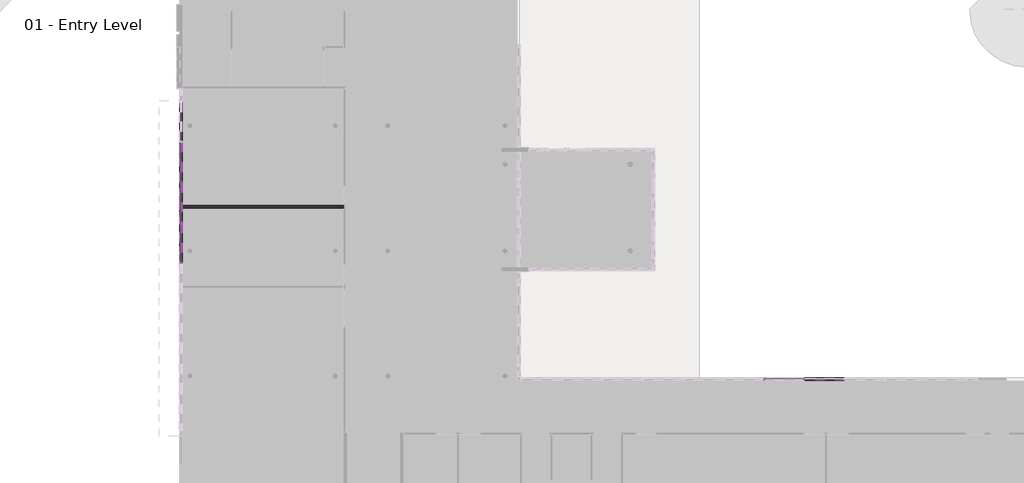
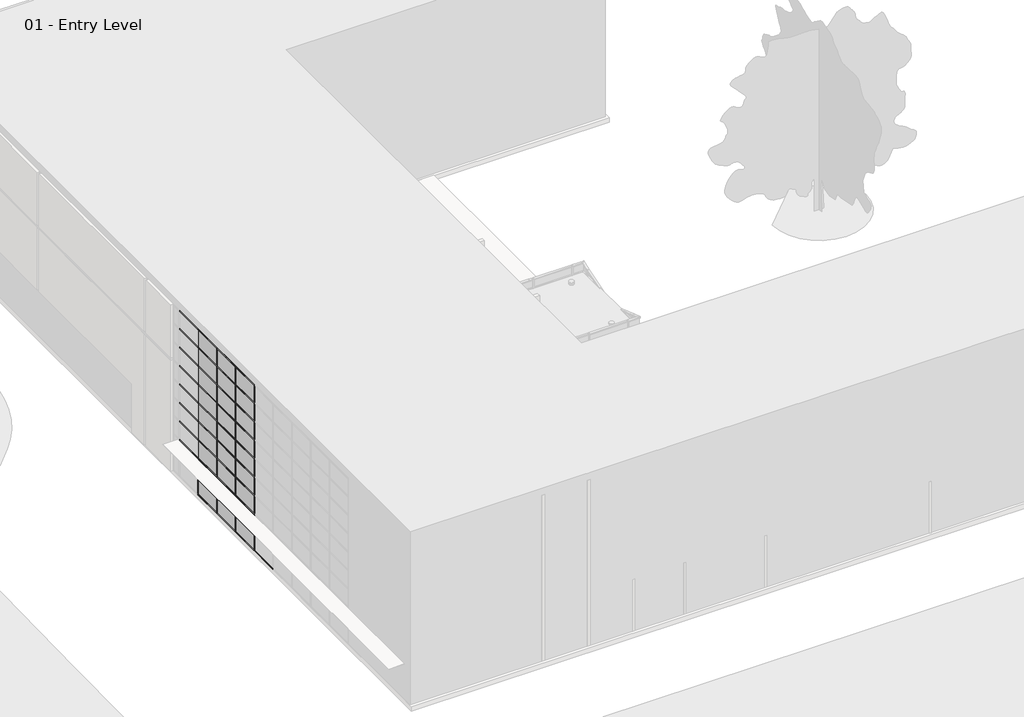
# One storey, part 11 of 34: 94 members, 36 plates, 1 wall.
"""IFC4 building model written with IfcOpenShell, lengths in millimetres."""

from ifc_helpers import new_model, si_unit, origin, origin_with_axes, place, context, project, spatial, polyline, outline, extrude, transform, mapped, element, save
from components import member_2b49869a, member_391b434c, member_9e90ae50, system_panel_glazed_1b9d6098, system_panel_glazed_70da479d, system_panel_solid_b376696c, system_panel_solid_77e8b053

model = new_model("IFC4")

# Units and contexts
model_context = context("Model", 3, world=origin())
ifc_project = project(units=[si_unit("LENGTHUNIT", "METRE", prefix="MILLI")], contexts=[model_context])

# Site, building, storey
site = spatial("IfcSite", under=ifc_project)
building = spatial("IfcBuilding", under=site)
storey = spatial("IfcBuildingStorey", under=building, Name="01 - Entry Level", Elevation=0.0)

# Members
placement = place(None, origin())
member_shape = member_2b49869a(model_context)
element("IfcMember", 1, ObjectType="Rectangular Mullion : 2.5\" x 5\" rectangular", at=placement, inside=storey, context=model_context, shape_type="MappedRepresentation", body=[
    mapped(member_shape, transform((178.7207476, 20920.0, 9753.6), x_axis=(0.0, -1.0, 0.0), y_axis=(-1.0, 0.0, 0.0), z_axis=(0.0, 0.0, -1.0))),
])
element("IfcMember", 2, ObjectType="Rectangular Mullion : 2.5\" x 5\" rectangular", at=placement, inside=storey, context=model_context, shape_type="MappedRepresentation", body=[
    mapped(member_shape, transform((178.7207476, 18888.0, 9753.6), x_axis=(0.0, -1.0, 0.0), y_axis=(-1.0, 0.0, 0.0), z_axis=(0.0, 0.0, -1.0))),
])
element("IfcMember", 3, ObjectType="Rectangular Mullion : 2.5\" x 5\" rectangular", at=placement, inside=storey, context=model_context, shape_type="MappedRepresentation", body=[
    mapped(member_shape, transform((178.7207476, 16856.0, 9753.6), x_axis=(0.0, -1.0, 0.0), y_axis=(-1.0, 0.0, 0.0), z_axis=(0.0, 0.0, -1.0))),
])
element("IfcMember", 4, ObjectType="Rectangular Mullion : 2.5\" x 5\" rectangular", at=placement, inside=storey, context=model_context, shape_type="MappedRepresentation", body=[
    mapped(member_shape, transform((31560.4207476, 11001.3, 9753.6), x_axis=(-1.0, 0.0, 0.0), y_axis=(0.0, 1.0, 0.0), z_axis=(0.0, 0.0, -1.0))),
])
element("IfcMember", 5, ObjectType="Rectangular Mullion : 2.5\" x 5\" rectangular", at=placement, inside=storey, context=model_context, shape_type="MappedRepresentation", body=[
    mapped(member_shape, transform((29528.4207476, 11001.3, 9753.6), x_axis=(-1.0, 0.0, 0.0), y_axis=(0.0, 1.0, 0.0), z_axis=(0.0, 0.0, -1.0))),
])
member_2_shape = member_391b434c(model_context)
element("IfcMember", 6, ObjectType="Rectangular Mullion : 2.5\" x 5\" rectangular", at=placement, inside=storey, context=model_context, shape_type="MappedRepresentation", body=[
    mapped(member_2_shape, transform((178.7207476, 22983.75, 10972.8), x_axis=(0.0, 0.0, 1.0), y_axis=(-1.0, 0.0, 0.0), z_axis=(0.0, -1.0, 0.0))),
])
element("IfcMember", 7, ObjectType="Rectangular Mullion : 2.5\" x 5\" rectangular", at=placement, inside=storey, context=model_context, shape_type="MappedRepresentation", body=[
    mapped(member_2_shape, transform((178.7207476, 20951.75, 10972.8), x_axis=(0.0, 0.0, 1.0), y_axis=(-1.0, 0.0, 0.0), z_axis=(0.0, -1.0, 0.0))),
])
element("IfcMember", 8, ObjectType="Rectangular Mullion : 2.5\" x 5\" rectangular", at=placement, inside=storey, context=model_context, shape_type="MappedRepresentation", body=[
    mapped(member_2_shape, transform((178.7207476, 18919.75, 10972.8), x_axis=(0.0, 0.0, 1.0), y_axis=(-1.0, 0.0, 0.0), z_axis=(0.0, -1.0, 0.0))),
])
element("IfcMember", 9, ObjectType="Rectangular Mullion : 2.5\" x 5\" rectangular", at=placement, inside=storey, context=model_context, shape_type="MappedRepresentation", body=[
    mapped(member_2_shape, transform((178.7207476, 16887.75, 10972.8), x_axis=(0.0, 0.0, 1.0), y_axis=(-1.0, 0.0, 0.0), z_axis=(0.0, -1.0, 0.0))),
])
element("IfcMember", 10, ObjectType="Rectangular Mullion : 2.5\" x 5\" rectangular", at=placement, inside=storey, context=model_context, shape_type="MappedRepresentation", body=[
    mapped(member_2_shape, transform((31592.1707476, 11001.3, 10972.8), x_axis=(0.0, 0.0, 1.0), y_axis=(0.0, 1.0, 0.0), z_axis=(-1.0, 0.0, 0.0))),
])
element("IfcMember", 11, ObjectType="Rectangular Mullion : 2.5\" x 5\" rectangular", at=placement, inside=storey, context=model_context, shape_type="MappedRepresentation", body=[
    mapped(member_2_shape, transform((178.7207476, 22920.25, 0.0), x_axis=(0.0, 0.0, -1.0), y_axis=(-1.0, 0.0, 0.0), z_axis=(0.0, 1.0, 0.0))),
])
element("IfcMember", 12, ObjectType="Rectangular Mullion : 2.5\" x 5\" rectangular", at=placement, inside=storey, context=model_context, shape_type="MappedRepresentation", body=[
    mapped(member_2_shape, transform((178.7207476, 20888.25, 0.0), x_axis=(0.0, 0.0, -1.0), y_axis=(-1.0, 0.0, 0.0), z_axis=(0.0, 1.0, 0.0))),
])
element("IfcMember", 13, ObjectType="Rectangular Mullion : 2.5\" x 5\" rectangular", at=placement, inside=storey, context=model_context, shape_type="MappedRepresentation", body=[
    mapped(member_2_shape, transform((178.7207476, 18856.25, 0.0), x_axis=(0.0, 0.0, -1.0), y_axis=(-1.0, 0.0, 0.0), z_axis=(0.0, 1.0, 0.0))),
])
element("IfcMember", 14, ObjectType="Rectangular Mullion : 2.5\" x 5\" rectangular", at=placement, inside=storey, context=model_context, shape_type="MappedRepresentation", body=[
    mapped(member_2_shape, transform((178.7207476, 16824.25, 0.0), x_axis=(0.0, 0.0, -1.0), y_axis=(-1.0, 0.0, 0.0), z_axis=(0.0, 1.0, 0.0))),
])
element("IfcMember", 15, ObjectType="Rectangular Mullion : 2.5\" x 5\" rectangular", at=placement, inside=storey, context=model_context, shape_type="MappedRepresentation", body=[
    mapped(member_2_shape, transform((31528.6707476, 11001.3, 0.0), x_axis=(0.0, 0.0, -1.0), y_axis=(0.0, 1.0, 0.0), z_axis=(1.0, 0.0, 0.0))),
])
member_3_shape = member_9e90ae50(model_context)
element("IfcMember", 16, ObjectType="Rectangular Mullion : 2.5\" x 5\" rectangular", at=placement, inside=storey, context=model_context, shape_type="MappedRepresentation", body=[
    mapped(member_3_shape, transform((178.7207476, 22983.75, 1219.2), x_axis=(0.0, 0.0, 1.0), y_axis=(-1.0, 0.0, 0.0), z_axis=(0.0, -1.0, 0.0))),
])
element("IfcMember", 17, ObjectType="Rectangular Mullion : 2.5\" x 5\" rectangular", at=placement, inside=storey, context=model_context, shape_type="MappedRepresentation", body=[
    mapped(member_3_shape, transform((178.7207476, 20951.75, 1219.2), x_axis=(0.0, 0.0, 1.0), y_axis=(-1.0, 0.0, 0.0), z_axis=(0.0, -1.0, 0.0))),
])
element("IfcMember", 18, ObjectType="Rectangular Mullion : 2.5\" x 5\" rectangular", at=placement, inside=storey, context=model_context, shape_type="MappedRepresentation", body=[
    mapped(member_3_shape, transform((178.7207476, 18919.75, 1219.2), x_axis=(0.0, 0.0, 1.0), y_axis=(-1.0, 0.0, 0.0), z_axis=(0.0, -1.0, 0.0))),
])
element("IfcMember", 19, ObjectType="Rectangular Mullion : 2.5\" x 5\" rectangular", at=placement, inside=storey, context=model_context, shape_type="MappedRepresentation", body=[
    mapped(member_3_shape, transform((178.7207476, 16887.75, 1219.2), x_axis=(0.0, 0.0, 1.0), y_axis=(-1.0, 0.0, 0.0), z_axis=(0.0, -1.0, 0.0))),
])
element("IfcMember", 20, ObjectType="Rectangular Mullion : 2.5\" x 5\" rectangular", at=placement, inside=storey, context=model_context, shape_type="MappedRepresentation", body=[
    mapped(member_3_shape, transform((178.7207476, 22983.75, 2438.4), x_axis=(0.0, 0.0, 1.0), y_axis=(-1.0, 0.0, 0.0), z_axis=(0.0, -1.0, 0.0))),
])
element("IfcMember", 21, ObjectType="Rectangular Mullion : 2.5\" x 5\" rectangular", at=placement, inside=storey, context=model_context, shape_type="MappedRepresentation", body=[
    mapped(member_3_shape, transform((178.7207476, 20951.75, 2438.4), x_axis=(0.0, 0.0, 1.0), y_axis=(-1.0, 0.0, 0.0), z_axis=(0.0, -1.0, 0.0))),
])
element("IfcMember", 22, ObjectType="Rectangular Mullion : 2.5\" x 5\" rectangular", at=placement, inside=storey, context=model_context, shape_type="MappedRepresentation", body=[
    mapped(member_3_shape, transform((178.7207476, 18919.75, 2438.4), x_axis=(0.0, 0.0, 1.0), y_axis=(-1.0, 0.0, 0.0), z_axis=(0.0, -1.0, 0.0))),
])
element("IfcMember", 23, ObjectType="Rectangular Mullion : 2.5\" x 5\" rectangular", at=placement, inside=storey, context=model_context, shape_type="MappedRepresentation", body=[
    mapped(member_3_shape, transform((178.7207476, 16887.75, 2438.4), x_axis=(0.0, 0.0, 1.0), y_axis=(-1.0, 0.0, 0.0), z_axis=(0.0, -1.0, 0.0))),
])
element("IfcMember", 24, ObjectType="Rectangular Mullion : 2.5\" x 5\" rectangular", at=placement, inside=storey, context=model_context, shape_type="MappedRepresentation", body=[
    mapped(member_3_shape, transform((178.7207476, 22983.75, 3657.6), x_axis=(0.0, 0.0, 1.0), y_axis=(-1.0, 0.0, 0.0), z_axis=(0.0, -1.0, 0.0))),
])
element("IfcMember", 25, ObjectType="Rectangular Mullion : 2.5\" x 5\" rectangular", at=placement, inside=storey, context=model_context, shape_type="MappedRepresentation", body=[
    mapped(member_3_shape, transform((178.7207476, 20951.75, 3657.6), x_axis=(0.0, 0.0, 1.0), y_axis=(-1.0, 0.0, 0.0), z_axis=(0.0, -1.0, 0.0))),
])
element("IfcMember", 26, ObjectType="Rectangular Mullion : 2.5\" x 5\" rectangular", at=placement, inside=storey, context=model_context, shape_type="MappedRepresentation", body=[
    mapped(member_3_shape, transform((178.7207476, 18919.75, 3657.6), x_axis=(0.0, 0.0, 1.0), y_axis=(-1.0, 0.0, 0.0), z_axis=(0.0, -1.0, 0.0))),
])
element("IfcMember", 27, ObjectType="Rectangular Mullion : 2.5\" x 5\" rectangular", at=placement, inside=storey, context=model_context, shape_type="MappedRepresentation", body=[
    mapped(member_3_shape, transform((178.7207476, 16887.75, 3657.6), x_axis=(0.0, 0.0, 1.0), y_axis=(-1.0, 0.0, 0.0), z_axis=(0.0, -1.0, 0.0))),
])
element("IfcMember", 28, ObjectType="Rectangular Mullion : 2.5\" x 5\" rectangular", at=placement, inside=storey, context=model_context, shape_type="MappedRepresentation", body=[
    mapped(member_3_shape, transform((178.7207476, 22983.75, 4876.8), x_axis=(0.0, 0.0, 1.0), y_axis=(-1.0, 0.0, 0.0), z_axis=(0.0, -1.0, 0.0))),
])
element("IfcMember", 29, ObjectType="Rectangular Mullion : 2.5\" x 5\" rectangular", at=placement, inside=storey, context=model_context, shape_type="MappedRepresentation", body=[
    mapped(member_3_shape, transform((178.7207476, 20951.75, 4876.8), x_axis=(0.0, 0.0, 1.0), y_axis=(-1.0, 0.0, 0.0), z_axis=(0.0, -1.0, 0.0))),
])
element("IfcMember", 30, ObjectType="Rectangular Mullion : 2.5\" x 5\" rectangular", at=placement, inside=storey, context=model_context, shape_type="MappedRepresentation", body=[
    mapped(member_3_shape, transform((178.7207476, 18919.75, 4876.8), x_axis=(0.0, 0.0, 1.0), y_axis=(-1.0, 0.0, 0.0), z_axis=(0.0, -1.0, 0.0))),
])
element("IfcMember", 31, ObjectType="Rectangular Mullion : 2.5\" x 5\" rectangular", at=placement, inside=storey, context=model_context, shape_type="MappedRepresentation", body=[
    mapped(member_3_shape, transform((178.7207476, 16887.75, 4876.8), x_axis=(0.0, 0.0, 1.0), y_axis=(-1.0, 0.0, 0.0), z_axis=(0.0, -1.0, 0.0))),
])
element("IfcMember", 32, ObjectType="Rectangular Mullion : 2.5\" x 5\" rectangular", at=placement, inside=storey, context=model_context, shape_type="MappedRepresentation", body=[
    mapped(member_3_shape, transform((178.7207476, 22983.75, 6096.0), x_axis=(0.0, 0.0, 1.0), y_axis=(-1.0, 0.0, 0.0), z_axis=(0.0, -1.0, 0.0))),
])
element("IfcMember", 33, ObjectType="Rectangular Mullion : 2.5\" x 5\" rectangular", at=placement, inside=storey, context=model_context, shape_type="MappedRepresentation", body=[
    mapped(member_3_shape, transform((178.7207476, 20951.75, 6096.0), x_axis=(0.0, 0.0, 1.0), y_axis=(-1.0, 0.0, 0.0), z_axis=(0.0, -1.0, 0.0))),
])
element("IfcMember", 34, ObjectType="Rectangular Mullion : 2.5\" x 5\" rectangular", at=placement, inside=storey, context=model_context, shape_type="MappedRepresentation", body=[
    mapped(member_3_shape, transform((178.7207476, 18919.75, 6096.0), x_axis=(0.0, 0.0, 1.0), y_axis=(-1.0, 0.0, 0.0), z_axis=(0.0, -1.0, 0.0))),
])
element("IfcMember", 35, ObjectType="Rectangular Mullion : 2.5\" x 5\" rectangular", at=placement, inside=storey, context=model_context, shape_type="MappedRepresentation", body=[
    mapped(member_3_shape, transform((178.7207476, 16887.75, 6096.0), x_axis=(0.0, 0.0, 1.0), y_axis=(-1.0, 0.0, 0.0), z_axis=(0.0, -1.0, 0.0))),
])
element("IfcMember", 36, ObjectType="Rectangular Mullion : 2.5\" x 5\" rectangular", at=placement, inside=storey, context=model_context, shape_type="MappedRepresentation", body=[
    mapped(member_3_shape, transform((178.7207476, 22983.75, 7315.2), x_axis=(0.0, 0.0, 1.0), y_axis=(-1.0, 0.0, 0.0), z_axis=(0.0, -1.0, 0.0))),
])
element("IfcMember", 37, ObjectType="Rectangular Mullion : 2.5\" x 5\" rectangular", at=placement, inside=storey, context=model_context, shape_type="MappedRepresentation", body=[
    mapped(member_3_shape, transform((178.7207476, 20951.75, 7315.2), x_axis=(0.0, 0.0, 1.0), y_axis=(-1.0, 0.0, 0.0), z_axis=(0.0, -1.0, 0.0))),
])
element("IfcMember", 38, ObjectType="Rectangular Mullion : 2.5\" x 5\" rectangular", at=placement, inside=storey, context=model_context, shape_type="MappedRepresentation", body=[
    mapped(member_3_shape, transform((178.7207476, 18919.75, 7315.2), x_axis=(0.0, 0.0, 1.0), y_axis=(-1.0, 0.0, 0.0), z_axis=(0.0, -1.0, 0.0))),
])
element("IfcMember", 39, ObjectType="Rectangular Mullion : 2.5\" x 5\" rectangular", at=placement, inside=storey, context=model_context, shape_type="MappedRepresentation", body=[
    mapped(member_3_shape, transform((178.7207476, 16887.75, 7315.2), x_axis=(0.0, 0.0, 1.0), y_axis=(-1.0, 0.0, 0.0), z_axis=(0.0, -1.0, 0.0))),
])
element("IfcMember", 40, ObjectType="Rectangular Mullion : 2.5\" x 5\" rectangular", at=placement, inside=storey, context=model_context, shape_type="MappedRepresentation", body=[
    mapped(member_3_shape, transform((178.7207476, 22983.75, 8534.4), x_axis=(0.0, 0.0, 1.0), y_axis=(-1.0, 0.0, 0.0), z_axis=(0.0, -1.0, 0.0))),
])
element("IfcMember", 41, ObjectType="Rectangular Mullion : 2.5\" x 5\" rectangular", at=placement, inside=storey, context=model_context, shape_type="MappedRepresentation", body=[
    mapped(member_3_shape, transform((178.7207476, 20951.75, 8534.4), x_axis=(0.0, 0.0, 1.0), y_axis=(-1.0, 0.0, 0.0), z_axis=(0.0, -1.0, 0.0))),
])
element("IfcMember", 42, ObjectType="Rectangular Mullion : 2.5\" x 5\" rectangular", at=placement, inside=storey, context=model_context, shape_type="MappedRepresentation", body=[
    mapped(member_3_shape, transform((178.7207476, 18919.75, 8534.4), x_axis=(0.0, 0.0, 1.0), y_axis=(-1.0, 0.0, 0.0), z_axis=(0.0, -1.0, 0.0))),
])
element("IfcMember", 43, ObjectType="Rectangular Mullion : 2.5\" x 5\" rectangular", at=placement, inside=storey, context=model_context, shape_type="MappedRepresentation", body=[
    mapped(member_3_shape, transform((178.7207476, 16887.75, 8534.4), x_axis=(0.0, 0.0, 1.0), y_axis=(-1.0, 0.0, 0.0), z_axis=(0.0, -1.0, 0.0))),
])
element("IfcMember", 44, ObjectType="Rectangular Mullion : 2.5\" x 5\" rectangular", at=placement, inside=storey, context=model_context, shape_type="MappedRepresentation", body=[
    mapped(member_3_shape, transform((178.7207476, 22983.75, 9753.6), x_axis=(0.0, 0.0, 1.0), y_axis=(-1.0, 0.0, 0.0), z_axis=(0.0, -1.0, 0.0))),
])
element("IfcMember", 45, ObjectType="Rectangular Mullion : 2.5\" x 5\" rectangular", at=placement, inside=storey, context=model_context, shape_type="MappedRepresentation", body=[
    mapped(member_3_shape, transform((178.7207476, 20951.75, 9753.6), x_axis=(0.0, 0.0, 1.0), y_axis=(-1.0, 0.0, 0.0), z_axis=(0.0, -1.0, 0.0))),
])
element("IfcMember", 46, ObjectType="Rectangular Mullion : 2.5\" x 5\" rectangular", at=placement, inside=storey, context=model_context, shape_type="MappedRepresentation", body=[
    mapped(member_3_shape, transform((178.7207476, 18919.75, 9753.6), x_axis=(0.0, 0.0, 1.0), y_axis=(-1.0, 0.0, 0.0), z_axis=(0.0, -1.0, 0.0))),
])
element("IfcMember", 47, ObjectType="Rectangular Mullion : 2.5\" x 5\" rectangular", at=placement, inside=storey, context=model_context, shape_type="MappedRepresentation", body=[
    mapped(member_3_shape, transform((178.7207476, 16887.75, 9753.6), x_axis=(0.0, 0.0, 1.0), y_axis=(-1.0, 0.0, 0.0), z_axis=(0.0, -1.0, 0.0))),
])
element("IfcMember", 48, ObjectType="Rectangular Mullion : 2.5\" x 5\" rectangular", at=placement, inside=storey, context=model_context, shape_type="MappedRepresentation", body=[
    mapped(member_3_shape, transform((31592.1707476, 11001.3, 1219.2), x_axis=(0.0, 0.0, 1.0), y_axis=(0.0, 1.0, 0.0), z_axis=(-1.0, 0.0, 0.0))),
])
element("IfcMember", 49, ObjectType="Rectangular Mullion : 2.5\" x 5\" rectangular", at=placement, inside=storey, context=model_context, shape_type="MappedRepresentation", body=[
    mapped(member_3_shape, transform((31592.1707476, 11001.3, 2438.4), x_axis=(0.0, 0.0, 1.0), y_axis=(0.0, 1.0, 0.0), z_axis=(-1.0, 0.0, 0.0))),
])
element("IfcMember", 50, ObjectType="Rectangular Mullion : 2.5\" x 5\" rectangular", at=placement, inside=storey, context=model_context, shape_type="MappedRepresentation", body=[
    mapped(member_3_shape, transform((31592.1707476, 11001.3, 3657.6), x_axis=(0.0, 0.0, 1.0), y_axis=(0.0, 1.0, 0.0), z_axis=(-1.0, 0.0, 0.0))),
])
element("IfcMember", 51, ObjectType="Rectangular Mullion : 2.5\" x 5\" rectangular", at=placement, inside=storey, context=model_context, shape_type="MappedRepresentation", body=[
    mapped(member_3_shape, transform((31592.1707476, 11001.3, 4876.8), x_axis=(0.0, 0.0, 1.0), y_axis=(0.0, 1.0, 0.0), z_axis=(-1.0, 0.0, 0.0))),
])
element("IfcMember", 52, ObjectType="Rectangular Mullion : 2.5\" x 5\" rectangular", at=placement, inside=storey, context=model_context, shape_type="MappedRepresentation", body=[
    mapped(member_3_shape, transform((31592.1707476, 11001.3, 6096.0), x_axis=(0.0, 0.0, 1.0), y_axis=(0.0, 1.0, 0.0), z_axis=(-1.0, 0.0, 0.0))),
])
element("IfcMember", 53, ObjectType="Rectangular Mullion : 2.5\" x 5\" rectangular", at=placement, inside=storey, context=model_context, shape_type="MappedRepresentation", body=[
    mapped(member_3_shape, transform((31592.1707476, 11001.3, 7315.2), x_axis=(0.0, 0.0, 1.0), y_axis=(0.0, 1.0, 0.0), z_axis=(-1.0, 0.0, 0.0))),
])
element("IfcMember", 54, ObjectType="Rectangular Mullion : 2.5\" x 5\" rectangular", at=placement, inside=storey, context=model_context, shape_type="MappedRepresentation", body=[
    mapped(member_3_shape, transform((31592.1707476, 11001.3, 8534.4), x_axis=(0.0, 0.0, 1.0), y_axis=(0.0, 1.0, 0.0), z_axis=(-1.0, 0.0, 0.0))),
])
element("IfcMember", 55, ObjectType="Rectangular Mullion : 2.5\" x 5\" rectangular", at=placement, inside=storey, context=model_context, shape_type="MappedRepresentation", body=[
    mapped(member_3_shape, transform((31592.1707476, 11001.3, 9753.6), x_axis=(0.0, 0.0, 1.0), y_axis=(0.0, 1.0, 0.0), z_axis=(-1.0, 0.0, 0.0))),
])
element("IfcMember", 56, ObjectType="Rectangular Mullion : 2.5\" x 5\" rectangular", at=placement, inside=storey, context=model_context, shape_type="MappedRepresentation", body=[
    mapped(member_shape, transform((178.7207476, 22952.0, 0.0), x_axis=(0.0, -1.0, 0.0), y_axis=(-1.0, 0.0, 0.0), z_axis=(0.0, 0.0, -1.0))),
])
element("IfcMember", 57, ObjectType="Rectangular Mullion : 2.5\" x 5\" rectangular", at=placement, inside=storey, context=model_context, shape_type="MappedRepresentation", body=[
    mapped(member_shape, transform((178.7207476, 20920.0, 0.0), x_axis=(0.0, -1.0, 0.0), y_axis=(-1.0, 0.0, 0.0), z_axis=(0.0, 0.0, -1.0))),
])
element("IfcMember", 58, ObjectType="Rectangular Mullion : 2.5\" x 5\" rectangular", at=placement, inside=storey, context=model_context, shape_type="MappedRepresentation", body=[
    mapped(member_shape, transform((178.7207476, 18888.0, 0.0), x_axis=(0.0, -1.0, 0.0), y_axis=(-1.0, 0.0, 0.0), z_axis=(0.0, 0.0, -1.0))),
])
element("IfcMember", 59, ObjectType="Rectangular Mullion : 2.5\" x 5\" rectangular", at=placement, inside=storey, context=model_context, shape_type="MappedRepresentation", body=[
    mapped(member_shape, transform((178.7207476, 16856.0, 0.0), x_axis=(0.0, -1.0, 0.0), y_axis=(-1.0, 0.0, 0.0), z_axis=(0.0, 0.0, -1.0))),
])
element("IfcMember", 60, ObjectType="Rectangular Mullion : 2.5\" x 5\" rectangular", at=placement, inside=storey, context=model_context, shape_type="MappedRepresentation", body=[
    mapped(member_shape, transform((31560.4207476, 11001.3, 0.0), x_axis=(-1.0, 0.0, 0.0), y_axis=(0.0, 1.0, 0.0), z_axis=(0.0, 0.0, -1.0))),
])
element("IfcMember", 61, ObjectType="Rectangular Mullion : 2.5\" x 5\" rectangular", at=placement, inside=storey, context=model_context, shape_type="MappedRepresentation", body=[
    mapped(member_shape, transform((178.7207476, 20920.0, 1219.2), x_axis=(0.0, -1.0, 0.0), y_axis=(-1.0, 0.0, 0.0), z_axis=(0.0, 0.0, -1.0))),
])
element("IfcMember", 62, ObjectType="Rectangular Mullion : 2.5\" x 5\" rectangular", at=placement, inside=storey, context=model_context, shape_type="MappedRepresentation", body=[
    mapped(member_shape, transform((178.7207476, 18888.0, 1219.2), x_axis=(0.0, -1.0, 0.0), y_axis=(-1.0, 0.0, 0.0), z_axis=(0.0, 0.0, -1.0))),
])
element("IfcMember", 63, ObjectType="Rectangular Mullion : 2.5\" x 5\" rectangular", at=placement, inside=storey, context=model_context, shape_type="MappedRepresentation", body=[
    mapped(member_shape, transform((178.7207476, 16856.0, 1219.2), x_axis=(0.0, -1.0, 0.0), y_axis=(-1.0, 0.0, 0.0), z_axis=(0.0, 0.0, -1.0))),
])
element("IfcMember", 64, ObjectType="Rectangular Mullion : 2.5\" x 5\" rectangular", at=placement, inside=storey, context=model_context, shape_type="MappedRepresentation", body=[
    mapped(member_shape, transform((178.7207476, 20920.0, 2438.4), x_axis=(0.0, -1.0, 0.0), y_axis=(-1.0, 0.0, 0.0), z_axis=(0.0, 0.0, -1.0))),
])
element("IfcMember", 65, ObjectType="Rectangular Mullion : 2.5\" x 5\" rectangular", at=placement, inside=storey, context=model_context, shape_type="MappedRepresentation", body=[
    mapped(member_shape, transform((178.7207476, 18888.0, 2438.4), x_axis=(0.0, -1.0, 0.0), y_axis=(-1.0, 0.0, 0.0), z_axis=(0.0, 0.0, -1.0))),
])
element("IfcMember", 66, ObjectType="Rectangular Mullion : 2.5\" x 5\" rectangular", at=placement, inside=storey, context=model_context, shape_type="MappedRepresentation", body=[
    mapped(member_shape, transform((178.7207476, 16856.0, 2438.4), x_axis=(0.0, -1.0, 0.0), y_axis=(-1.0, 0.0, 0.0), z_axis=(0.0, 0.0, -1.0))),
])
element("IfcMember", 67, ObjectType="Rectangular Mullion : 2.5\" x 5\" rectangular", at=placement, inside=storey, context=model_context, shape_type="MappedRepresentation", body=[
    mapped(member_shape, transform((178.7207476, 20920.0, 3657.6), x_axis=(0.0, -1.0, 0.0), y_axis=(-1.0, 0.0, 0.0), z_axis=(0.0, 0.0, -1.0))),
])
element("IfcMember", 68, ObjectType="Rectangular Mullion : 2.5\" x 5\" rectangular", at=placement, inside=storey, context=model_context, shape_type="MappedRepresentation", body=[
    mapped(member_shape, transform((178.7207476, 18888.0, 3657.6), x_axis=(0.0, -1.0, 0.0), y_axis=(-1.0, 0.0, 0.0), z_axis=(0.0, 0.0, -1.0))),
])
element("IfcMember", 69, ObjectType="Rectangular Mullion : 2.5\" x 5\" rectangular", at=placement, inside=storey, context=model_context, shape_type="MappedRepresentation", body=[
    mapped(member_shape, transform((178.7207476, 16856.0, 3657.6), x_axis=(0.0, -1.0, 0.0), y_axis=(-1.0, 0.0, 0.0), z_axis=(0.0, 0.0, -1.0))),
])
element("IfcMember", 70, ObjectType="Rectangular Mullion : 2.5\" x 5\" rectangular", at=placement, inside=storey, context=model_context, shape_type="MappedRepresentation", body=[
    mapped(member_shape, transform((178.7207476, 20920.0, 4876.8), x_axis=(0.0, -1.0, 0.0), y_axis=(-1.0, 0.0, 0.0), z_axis=(0.0, 0.0, -1.0))),
])
element("IfcMember", 71, ObjectType="Rectangular Mullion : 2.5\" x 5\" rectangular", at=placement, inside=storey, context=model_context, shape_type="MappedRepresentation", body=[
    mapped(member_shape, transform((178.7207476, 18888.0, 4876.8), x_axis=(0.0, -1.0, 0.0), y_axis=(-1.0, 0.0, 0.0), z_axis=(0.0, 0.0, -1.0))),
])
element("IfcMember", 72, ObjectType="Rectangular Mullion : 2.5\" x 5\" rectangular", at=placement, inside=storey, context=model_context, shape_type="MappedRepresentation", body=[
    mapped(member_shape, transform((178.7207476, 16856.0, 4876.8), x_axis=(0.0, -1.0, 0.0), y_axis=(-1.0, 0.0, 0.0), z_axis=(0.0, 0.0, -1.0))),
])
element("IfcMember", 73, ObjectType="Rectangular Mullion : 2.5\" x 5\" rectangular", at=placement, inside=storey, context=model_context, shape_type="MappedRepresentation", body=[
    mapped(member_shape, transform((178.7207476, 20920.0, 6096.0), x_axis=(0.0, -1.0, 0.0), y_axis=(-1.0, 0.0, 0.0), z_axis=(0.0, 0.0, -1.0))),
])
element("IfcMember", 74, ObjectType="Rectangular Mullion : 2.5\" x 5\" rectangular", at=placement, inside=storey, context=model_context, shape_type="MappedRepresentation", body=[
    mapped(member_shape, transform((178.7207476, 18888.0, 6096.0), x_axis=(0.0, -1.0, 0.0), y_axis=(-1.0, 0.0, 0.0), z_axis=(0.0, 0.0, -1.0))),
])
element("IfcMember", 75, ObjectType="Rectangular Mullion : 2.5\" x 5\" rectangular", at=placement, inside=storey, context=model_context, shape_type="MappedRepresentation", body=[
    mapped(member_shape, transform((178.7207476, 16856.0, 6096.0), x_axis=(0.0, -1.0, 0.0), y_axis=(-1.0, 0.0, 0.0), z_axis=(0.0, 0.0, -1.0))),
])
element("IfcMember", 76, ObjectType="Rectangular Mullion : 2.5\" x 5\" rectangular", at=placement, inside=storey, context=model_context, shape_type="MappedRepresentation", body=[
    mapped(member_shape, transform((178.7207476, 20920.0, 7315.2), x_axis=(0.0, -1.0, 0.0), y_axis=(-1.0, 0.0, 0.0), z_axis=(0.0, 0.0, -1.0))),
])
element("IfcMember", 77, ObjectType="Rectangular Mullion : 2.5\" x 5\" rectangular", at=placement, inside=storey, context=model_context, shape_type="MappedRepresentation", body=[
    mapped(member_shape, transform((178.7207476, 18888.0, 7315.2), x_axis=(0.0, -1.0, 0.0), y_axis=(-1.0, 0.0, 0.0), z_axis=(0.0, 0.0, -1.0))),
])
element("IfcMember", 78, ObjectType="Rectangular Mullion : 2.5\" x 5\" rectangular", at=placement, inside=storey, context=model_context, shape_type="MappedRepresentation", body=[
    mapped(member_shape, transform((178.7207476, 16856.0, 7315.2), x_axis=(0.0, -1.0, 0.0), y_axis=(-1.0, 0.0, 0.0), z_axis=(0.0, 0.0, -1.0))),
])
element("IfcMember", 79, ObjectType="Rectangular Mullion : 2.5\" x 5\" rectangular", at=placement, inside=storey, context=model_context, shape_type="MappedRepresentation", body=[
    mapped(member_shape, transform((178.7207476, 20920.0, 8534.4), x_axis=(0.0, -1.0, 0.0), y_axis=(-1.0, 0.0, 0.0), z_axis=(0.0, 0.0, -1.0))),
])
element("IfcMember", 80, ObjectType="Rectangular Mullion : 2.5\" x 5\" rectangular", at=placement, inside=storey, context=model_context, shape_type="MappedRepresentation", body=[
    mapped(member_shape, transform((178.7207476, 18888.0, 8534.4), x_axis=(0.0, -1.0, 0.0), y_axis=(-1.0, 0.0, 0.0), z_axis=(0.0, 0.0, -1.0))),
])
element("IfcMember", 81, ObjectType="Rectangular Mullion : 2.5\" x 5\" rectangular", at=placement, inside=storey, context=model_context, shape_type="MappedRepresentation", body=[
    mapped(member_shape, transform((178.7207476, 16856.0, 8534.4), x_axis=(0.0, -1.0, 0.0), y_axis=(-1.0, 0.0, 0.0), z_axis=(0.0, 0.0, -1.0))),
])
element("IfcMember", 82, ObjectType="Rectangular Mullion : 2.5\" x 5\" rectangular", at=placement, inside=storey, context=model_context, shape_type="MappedRepresentation", body=[
    mapped(member_shape, transform((31560.4207476, 11001.3, 1219.2), x_axis=(-1.0, 0.0, 0.0), y_axis=(0.0, 1.0, 0.0), z_axis=(0.0, 0.0, -1.0))),
])
element("IfcMember", 83, ObjectType="Rectangular Mullion : 2.5\" x 5\" rectangular", at=placement, inside=storey, context=model_context, shape_type="MappedRepresentation", body=[
    mapped(member_shape, transform((31560.4207476, 11001.3, 2438.4), x_axis=(-1.0, 0.0, 0.0), y_axis=(0.0, 1.0, 0.0), z_axis=(0.0, 0.0, -1.0))),
])
element("IfcMember", 84, ObjectType="Rectangular Mullion : 2.5\" x 5\" rectangular", at=placement, inside=storey, context=model_context, shape_type="MappedRepresentation", body=[
    mapped(member_shape, transform((29528.4207476, 11001.3, 2438.4), x_axis=(-1.0, 0.0, 0.0), y_axis=(0.0, 1.0, 0.0), z_axis=(0.0, 0.0, -1.0))),
])
element("IfcMember", 85, ObjectType="Rectangular Mullion : 2.5\" x 5\" rectangular", at=placement, inside=storey, context=model_context, shape_type="MappedRepresentation", body=[
    mapped(member_shape, transform((31560.4207476, 11001.3, 3657.6), x_axis=(-1.0, 0.0, 0.0), y_axis=(0.0, 1.0, 0.0), z_axis=(0.0, 0.0, -1.0))),
])
element("IfcMember", 86, ObjectType="Rectangular Mullion : 2.5\" x 5\" rectangular", at=placement, inside=storey, context=model_context, shape_type="MappedRepresentation", body=[
    mapped(member_shape, transform((29528.4207476, 11001.3, 3657.6), x_axis=(-1.0, 0.0, 0.0), y_axis=(0.0, 1.0, 0.0), z_axis=(0.0, 0.0, -1.0))),
])
element("IfcMember", 87, ObjectType="Rectangular Mullion : 2.5\" x 5\" rectangular", at=placement, inside=storey, context=model_context, shape_type="MappedRepresentation", body=[
    mapped(member_shape, transform((31560.4207476, 11001.3, 4876.8), x_axis=(-1.0, 0.0, 0.0), y_axis=(0.0, 1.0, 0.0), z_axis=(0.0, 0.0, -1.0))),
])
element("IfcMember", 88, ObjectType="Rectangular Mullion : 2.5\" x 5\" rectangular", at=placement, inside=storey, context=model_context, shape_type="MappedRepresentation", body=[
    mapped(member_shape, transform((29528.4207476, 11001.3, 4876.8), x_axis=(-1.0, 0.0, 0.0), y_axis=(0.0, 1.0, 0.0), z_axis=(0.0, 0.0, -1.0))),
])
element("IfcMember", 89, ObjectType="Rectangular Mullion : 2.5\" x 5\" rectangular", at=placement, inside=storey, context=model_context, shape_type="MappedRepresentation", body=[
    mapped(member_shape, transform((31560.4207476, 11001.3, 6096.0), x_axis=(-1.0, 0.0, 0.0), y_axis=(0.0, 1.0, 0.0), z_axis=(0.0, 0.0, -1.0))),
])
element("IfcMember", 90, ObjectType="Rectangular Mullion : 2.5\" x 5\" rectangular", at=placement, inside=storey, context=model_context, shape_type="MappedRepresentation", body=[
    mapped(member_shape, transform((29528.4207476, 11001.3, 6096.0), x_axis=(-1.0, 0.0, 0.0), y_axis=(0.0, 1.0, 0.0), z_axis=(0.0, 0.0, -1.0))),
])
element("IfcMember", 91, ObjectType="Rectangular Mullion : 2.5\" x 5\" rectangular", at=placement, inside=storey, context=model_context, shape_type="MappedRepresentation", body=[
    mapped(member_shape, transform((31560.4207476, 11001.3, 7315.2), x_axis=(-1.0, 0.0, 0.0), y_axis=(0.0, 1.0, 0.0), z_axis=(0.0, 0.0, -1.0))),
])
element("IfcMember", 92, ObjectType="Rectangular Mullion : 2.5\" x 5\" rectangular", at=placement, inside=storey, context=model_context, shape_type="MappedRepresentation", body=[
    mapped(member_shape, transform((29528.4207476, 11001.3, 7315.2), x_axis=(-1.0, 0.0, 0.0), y_axis=(0.0, 1.0, 0.0), z_axis=(0.0, 0.0, -1.0))),
])
element("IfcMember", 93, ObjectType="Rectangular Mullion : 2.5\" x 5\" rectangular", at=placement, inside=storey, context=model_context, shape_type="MappedRepresentation", body=[
    mapped(member_shape, transform((31560.4207476, 11001.3, 8534.4), x_axis=(-1.0, 0.0, 0.0), y_axis=(0.0, 1.0, 0.0), z_axis=(0.0, 0.0, -1.0))),
])
element("IfcMember", 94, ObjectType="Rectangular Mullion : 2.5\" x 5\" rectangular", at=placement, inside=storey, context=model_context, shape_type="MappedRepresentation", body=[
    mapped(member_shape, transform((29528.4207476, 11001.3, 8534.4), x_axis=(-1.0, 0.0, 0.0), y_axis=(0.0, 1.0, 0.0), z_axis=(0.0, 0.0, -1.0))),
])

# Plates
system_panel_glazed_shape = system_panel_glazed_1b9d6098(model_context)
element("IfcPlate", 95, ObjectType="System Panel : Glazed", at=placement, inside=storey, context=model_context, shape_type="MappedRepresentation", body=[
    mapped(system_panel_glazed_shape, transform((30544.4207476, 11001.3, 63.5), x_axis=(-1.0, 0.0, 0.0), y_axis=(0.0, -1.0, 0.0), z_axis=(0.0, 0.0, 1.0))),
])
element("IfcPlate", 96, ObjectType="System Panel : Glazed", at=placement, inside=storey, context=model_context, shape_type="MappedRepresentation", body=[
    mapped(system_panel_glazed_shape, transform((30544.4207476, 11001.3, 9785.35), x_axis=(-1.0, 0.0, 0.0), y_axis=(0.0, -1.0, 0.0), z_axis=(0.0, 0.0, 1.0))),
])
element("IfcPlate", 97, ObjectType="System Panel : Glazed", at=placement, inside=storey, context=model_context, shape_type="MappedRepresentation", body=[
    mapped(system_panel_glazed_shape, transform((178.7207476, 21936.0, 63.5), x_axis=(0.0, -1.0, 0.0), y_axis=(1.0, 0.0, 0.0), z_axis=(0.0, 0.0, 1.0))),
])
element("IfcPlate", 98, ObjectType="System Panel : Glazed", at=placement, inside=storey, context=model_context, shape_type="MappedRepresentation", body=[
    mapped(system_panel_glazed_shape, transform((178.7207476, 19904.0, 63.5), x_axis=(0.0, -1.0, 0.0), y_axis=(1.0, 0.0, 0.0), z_axis=(0.0, 0.0, 1.0))),
])
element("IfcPlate", 99, ObjectType="System Panel : Glazed", at=placement, inside=storey, context=model_context, shape_type="MappedRepresentation", body=[
    mapped(system_panel_glazed_shape, transform((178.7207476, 17872.0, 63.5), x_axis=(0.0, -1.0, 0.0), y_axis=(1.0, 0.0, 0.0), z_axis=(0.0, 0.0, 1.0))),
])
system_panel_glazed_2_shape = system_panel_glazed_70da479d(model_context)
element("IfcPlate", 100, ObjectType="System Panel : Glazed", at=placement, inside=storey, context=model_context, shape_type="MappedRepresentation", body=[
    mapped(system_panel_glazed_2_shape, transform((30544.4207476, 11001.3, 1250.95), x_axis=(-1.0, 0.0, 0.0), y_axis=(0.0, -1.0, 0.0), z_axis=(0.0, 0.0, 1.0))),
])
element("IfcPlate", 101, ObjectType="System Panel : Glazed", at=placement, inside=storey, context=model_context, shape_type="MappedRepresentation", body=[
    mapped(system_panel_glazed_2_shape, transform((30544.4207476, 11001.3, 2470.15), x_axis=(-1.0, 0.0, 0.0), y_axis=(0.0, -1.0, 0.0), z_axis=(0.0, 0.0, 1.0))),
])
element("IfcPlate", 102, ObjectType="System Panel : Glazed", at=placement, inside=storey, context=model_context, shape_type="MappedRepresentation", body=[
    mapped(system_panel_glazed_2_shape, transform((30544.4207476, 11001.3, 3689.35), x_axis=(-1.0, 0.0, 0.0), y_axis=(0.0, -1.0, 0.0), z_axis=(0.0, 0.0, 1.0))),
])
element("IfcPlate", 103, ObjectType="System Panel : Glazed", at=placement, inside=storey, context=model_context, shape_type="MappedRepresentation", body=[
    mapped(system_panel_glazed_2_shape, transform((30544.4207476, 11001.3, 4908.55), x_axis=(-1.0, 0.0, 0.0), y_axis=(0.0, -1.0, 0.0), z_axis=(0.0, 0.0, 1.0))),
])
element("IfcPlate", 104, ObjectType="System Panel : Glazed", at=placement, inside=storey, context=model_context, shape_type="MappedRepresentation", body=[
    mapped(system_panel_glazed_2_shape, transform((30544.4207476, 11001.3, 6127.75), x_axis=(-1.0, 0.0, 0.0), y_axis=(0.0, -1.0, 0.0), z_axis=(0.0, 0.0, 1.0))),
])
element("IfcPlate", 105, ObjectType="System Panel : Glazed", at=placement, inside=storey, context=model_context, shape_type="MappedRepresentation", body=[
    mapped(system_panel_glazed_2_shape, transform((30544.4207476, 11001.3, 7346.95), x_axis=(-1.0, 0.0, 0.0), y_axis=(0.0, -1.0, 0.0), z_axis=(0.0, 0.0, 1.0))),
])
element("IfcPlate", 106, ObjectType="System Panel : Glazed", at=placement, inside=storey, context=model_context, shape_type="MappedRepresentation", body=[
    mapped(system_panel_glazed_2_shape, transform((30544.4207476, 11001.3, 8566.15), x_axis=(-1.0, 0.0, 0.0), y_axis=(0.0, -1.0, 0.0), z_axis=(0.0, 0.0, 1.0))),
])
element("IfcPlate", 107, ObjectType="System Panel : Glazed", at=placement, inside=storey, context=model_context, shape_type="MappedRepresentation", body=[
    mapped(system_panel_glazed_2_shape, transform((178.7207476, 21936.0, 1250.95), x_axis=(0.0, -1.0, 0.0), y_axis=(1.0, 0.0, 0.0), z_axis=(0.0, 0.0, 1.0))),
])
element("IfcPlate", 108, ObjectType="System Panel : Glazed", at=placement, inside=storey, context=model_context, shape_type="MappedRepresentation", body=[
    mapped(system_panel_glazed_2_shape, transform((178.7207476, 19904.0, 1250.95), x_axis=(0.0, -1.0, 0.0), y_axis=(1.0, 0.0, 0.0), z_axis=(0.0, 0.0, 1.0))),
])
element("IfcPlate", 109, ObjectType="System Panel : Glazed", at=placement, inside=storey, context=model_context, shape_type="MappedRepresentation", body=[
    mapped(system_panel_glazed_2_shape, transform((178.7207476, 17872.0, 1250.95), x_axis=(0.0, -1.0, 0.0), y_axis=(1.0, 0.0, 0.0), z_axis=(0.0, 0.0, 1.0))),
])
element("IfcPlate", 110, ObjectType="System Panel : Glazed", at=placement, inside=storey, context=model_context, shape_type="MappedRepresentation", body=[
    mapped(system_panel_glazed_2_shape, transform((178.7207476, 21936.0, 3689.35), x_axis=(0.0, -1.0, 0.0), y_axis=(1.0, 0.0, 0.0), z_axis=(0.0, 0.0, 1.0))),
])
element("IfcPlate", 111, ObjectType="System Panel : Glazed", at=placement, inside=storey, context=model_context, shape_type="MappedRepresentation", body=[
    mapped(system_panel_glazed_2_shape, transform((178.7207476, 19904.0, 3689.35), x_axis=(0.0, -1.0, 0.0), y_axis=(1.0, 0.0, 0.0), z_axis=(0.0, 0.0, 1.0))),
])
element("IfcPlate", 112, ObjectType="System Panel : Glazed", at=placement, inside=storey, context=model_context, shape_type="MappedRepresentation", body=[
    mapped(system_panel_glazed_2_shape, transform((178.7207476, 17872.0, 3689.35), x_axis=(0.0, -1.0, 0.0), y_axis=(1.0, 0.0, 0.0), z_axis=(0.0, 0.0, 1.0))),
])
element("IfcPlate", 113, ObjectType="System Panel : Glazed", at=placement, inside=storey, context=model_context, shape_type="MappedRepresentation", body=[
    mapped(system_panel_glazed_2_shape, transform((178.7207476, 21936.0, 4908.55), x_axis=(0.0, -1.0, 0.0), y_axis=(1.0, 0.0, 0.0), z_axis=(0.0, 0.0, 1.0))),
])
element("IfcPlate", 114, ObjectType="System Panel : Glazed", at=placement, inside=storey, context=model_context, shape_type="MappedRepresentation", body=[
    mapped(system_panel_glazed_2_shape, transform((178.7207476, 19904.0, 4908.55), x_axis=(0.0, -1.0, 0.0), y_axis=(1.0, 0.0, 0.0), z_axis=(0.0, 0.0, 1.0))),
])
element("IfcPlate", 115, ObjectType="System Panel : Glazed", at=placement, inside=storey, context=model_context, shape_type="MappedRepresentation", body=[
    mapped(system_panel_glazed_2_shape, transform((178.7207476, 17872.0, 4908.55), x_axis=(0.0, -1.0, 0.0), y_axis=(1.0, 0.0, 0.0), z_axis=(0.0, 0.0, 1.0))),
])
element("IfcPlate", 116, ObjectType="System Panel : Glazed", at=placement, inside=storey, context=model_context, shape_type="MappedRepresentation", body=[
    mapped(system_panel_glazed_2_shape, transform((178.7207476, 21936.0, 7346.95), x_axis=(0.0, -1.0, 0.0), y_axis=(1.0, 0.0, 0.0), z_axis=(0.0, 0.0, 1.0))),
])
element("IfcPlate", 117, ObjectType="System Panel : Glazed", at=placement, inside=storey, context=model_context, shape_type="MappedRepresentation", body=[
    mapped(system_panel_glazed_2_shape, transform((178.7207476, 19904.0, 7346.95), x_axis=(0.0, -1.0, 0.0), y_axis=(1.0, 0.0, 0.0), z_axis=(0.0, 0.0, 1.0))),
])
element("IfcPlate", 118, ObjectType="System Panel : Glazed", at=placement, inside=storey, context=model_context, shape_type="MappedRepresentation", body=[
    mapped(system_panel_glazed_2_shape, transform((178.7207476, 17872.0, 7346.95), x_axis=(0.0, -1.0, 0.0), y_axis=(1.0, 0.0, 0.0), z_axis=(0.0, 0.0, 1.0))),
])
element("IfcPlate", 119, ObjectType="System Panel : Glazed", at=placement, inside=storey, context=model_context, shape_type="MappedRepresentation", body=[
    mapped(system_panel_glazed_2_shape, transform((178.7207476, 21936.0, 8566.15), x_axis=(0.0, -1.0, 0.0), y_axis=(1.0, 0.0, 0.0), z_axis=(0.0, 0.0, 1.0))),
])
element("IfcPlate", 120, ObjectType="System Panel : Glazed", at=placement, inside=storey, context=model_context, shape_type="MappedRepresentation", body=[
    mapped(system_panel_glazed_2_shape, transform((178.7207476, 19904.0, 8566.15), x_axis=(0.0, -1.0, 0.0), y_axis=(1.0, 0.0, 0.0), z_axis=(0.0, 0.0, 1.0))),
])
element("IfcPlate", 121, ObjectType="System Panel : Glazed", at=placement, inside=storey, context=model_context, shape_type="MappedRepresentation", body=[
    mapped(system_panel_glazed_2_shape, transform((178.7207476, 17872.0, 8566.15), x_axis=(0.0, -1.0, 0.0), y_axis=(1.0, 0.0, 0.0), z_axis=(0.0, 0.0, 1.0))),
])
system_panel_solid_shape = system_panel_solid_b376696c(model_context)
element("IfcPlate", 122, ObjectType="System Panel : Solid", at=placement, inside=storey, context=model_context, shape_type="MappedRepresentation", body=[
    mapped(system_panel_solid_shape, transform((178.7207476, 21936.0, 9785.35), x_axis=(0.0, -1.0, 0.0), y_axis=(1.0, 0.0, 0.0), z_axis=(0.0, 0.0, 1.0))),
])
element("IfcPlate", 123, ObjectType="System Panel : Solid", at=placement, inside=storey, context=model_context, shape_type="MappedRepresentation", body=[
    mapped(system_panel_solid_shape, transform((178.7207476, 19904.0, 9785.35), x_axis=(0.0, -1.0, 0.0), y_axis=(1.0, 0.0, 0.0), z_axis=(0.0, 0.0, 1.0))),
])
element("IfcPlate", 124, ObjectType="System Panel : Solid", at=placement, inside=storey, context=model_context, shape_type="MappedRepresentation", body=[
    mapped(system_panel_solid_shape, transform((178.7207476, 17872.0, 9785.35), x_axis=(0.0, -1.0, 0.0), y_axis=(1.0, 0.0, 0.0), z_axis=(0.0, 0.0, 1.0))),
])
system_panel_solid_2_shape = system_panel_solid_77e8b053(model_context)
element("IfcPlate", 125, ObjectType="System Panel : Solid", at=placement, inside=storey, context=model_context, shape_type="MappedRepresentation", body=[
    mapped(system_panel_solid_2_shape, transform((178.7207476, 21936.0, 2470.15), x_axis=(0.0, -1.0, 0.0), y_axis=(1.0, 0.0, 0.0), z_axis=(0.0, 0.0, 1.0))),
])
element("IfcPlate", 126, ObjectType="System Panel : Solid", at=placement, inside=storey, context=model_context, shape_type="MappedRepresentation", body=[
    mapped(system_panel_solid_2_shape, transform((178.7207476, 19904.0, 2470.15), x_axis=(0.0, -1.0, 0.0), y_axis=(1.0, 0.0, 0.0), z_axis=(0.0, 0.0, 1.0))),
])
element("IfcPlate", 127, ObjectType="System Panel : Solid", at=placement, inside=storey, context=model_context, shape_type="MappedRepresentation", body=[
    mapped(system_panel_solid_2_shape, transform((178.7207476, 17872.0, 2470.15), x_axis=(0.0, -1.0, 0.0), y_axis=(1.0, 0.0, 0.0), z_axis=(0.0, 0.0, 1.0))),
])
element("IfcPlate", 128, ObjectType="System Panel : Solid", at=placement, inside=storey, context=model_context, shape_type="MappedRepresentation", body=[
    mapped(system_panel_solid_2_shape, transform((178.7207476, 21936.0, 6127.75), x_axis=(0.0, -1.0, 0.0), y_axis=(1.0, 0.0, 0.0), z_axis=(0.0, 0.0, 1.0))),
])
element("IfcPlate", 129, ObjectType="System Panel : Solid", at=placement, inside=storey, context=model_context, shape_type="MappedRepresentation", body=[
    mapped(system_panel_solid_2_shape, transform((178.7207476, 19904.0, 6127.75), x_axis=(0.0, -1.0, 0.0), y_axis=(1.0, 0.0, 0.0), z_axis=(0.0, 0.0, 1.0))),
])
element("IfcPlate", 130, ObjectType="System Panel : Solid", at=placement, inside=storey, context=model_context, shape_type="MappedRepresentation", body=[
    mapped(system_panel_solid_2_shape, transform((178.7207476, 17872.0, 6127.75), x_axis=(0.0, -1.0, 0.0), y_axis=(1.0, 0.0, 0.0), z_axis=(0.0, 0.0, 1.0))),
])

# Wall
element("IfcWall", 131, ObjectType="Generic - 5\"", at=placement, inside=storey, context=model_context, shape_type="SweptSolid", body=[
    extrude(outline(polyline([(178.7207476, 19738.9), (8357.5207476, 19738.9), (8357.5207476, 19611.9), (178.7207476, 19611.9), (178.7207476, 19738.9)])), origin_with_axes(), (0.0, 0.0, 1.0), 3403.6),
])

save(model, "model.ifc")
